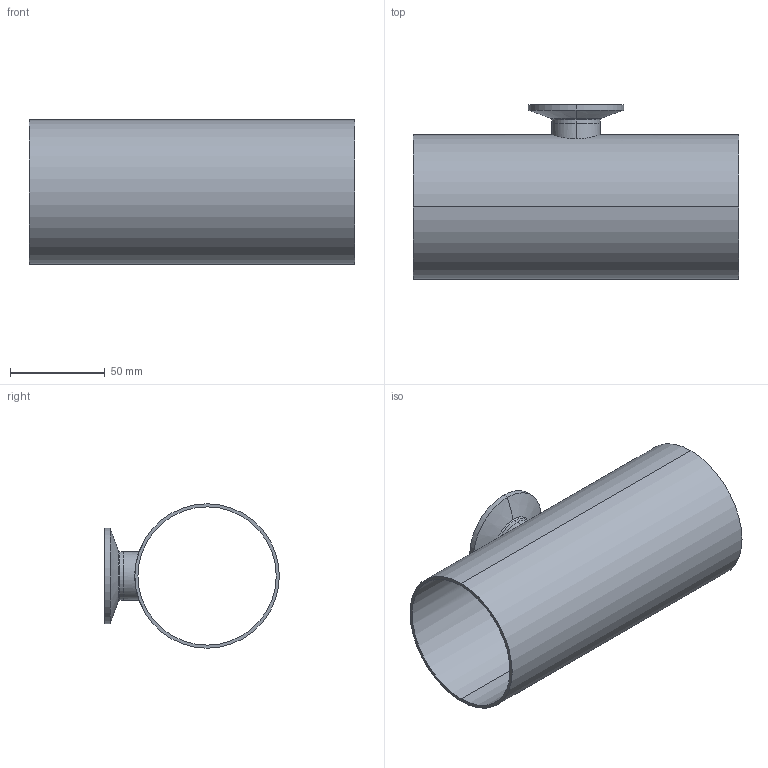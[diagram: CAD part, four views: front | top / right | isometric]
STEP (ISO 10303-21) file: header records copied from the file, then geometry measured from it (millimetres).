
FILE_DESCRIPTION (( 'STEP AP214' ), '1' );
FILE_NAME ('TE7RWWCS6L3.0x1.0-...STEP', '2016-05-23T12:16:19', ( 'eran' ), ( '' ), 'SwSTEP 2.0', 'SolidWorks 2016', '' );
FILE_SCHEMA (( 'AUTOMOTIVE_DESIGN' ));
Length unit declared in the file: millimetre
Products named in the file (1): TE7RWWCS6L3.0x1.0-..
Bounding box: 171.4 x 92.1 x 76.2 mm (x, y, z)
Volume: 74741.7 mm3; surface area: 86144.9 mm2
Topology: 2 solids, 2 shells, 36 faces, 88 edges, 58 vertices
Faces by surface type: cylinder 14, bspline 10, plane 6, cone 6
Entity records: 1827 total; most frequent: CARTESIAN_POINT 923, DIRECTION 190, ORIENTED_EDGE 176, EDGE_CURVE 88, AXIS2_PLACEMENT_3D 85, CIRCLE 58, VERTEX_POINT 58, EDGE_LOOP 44
